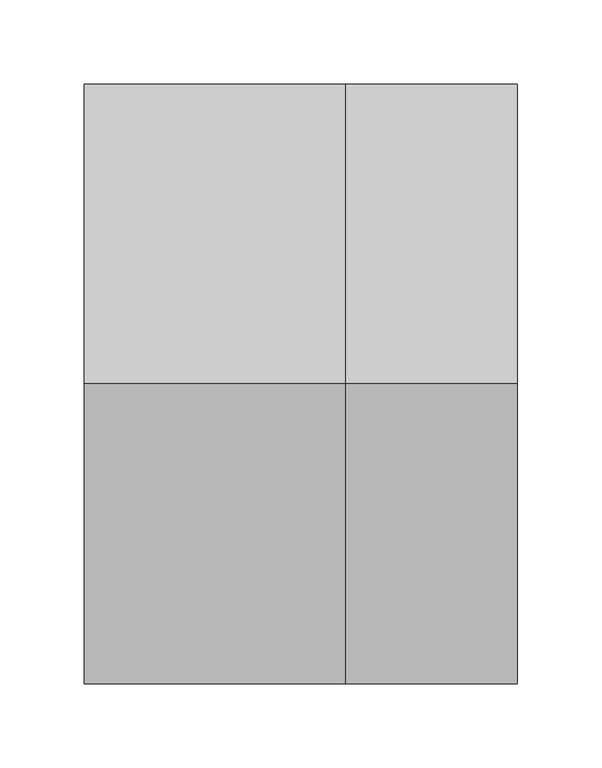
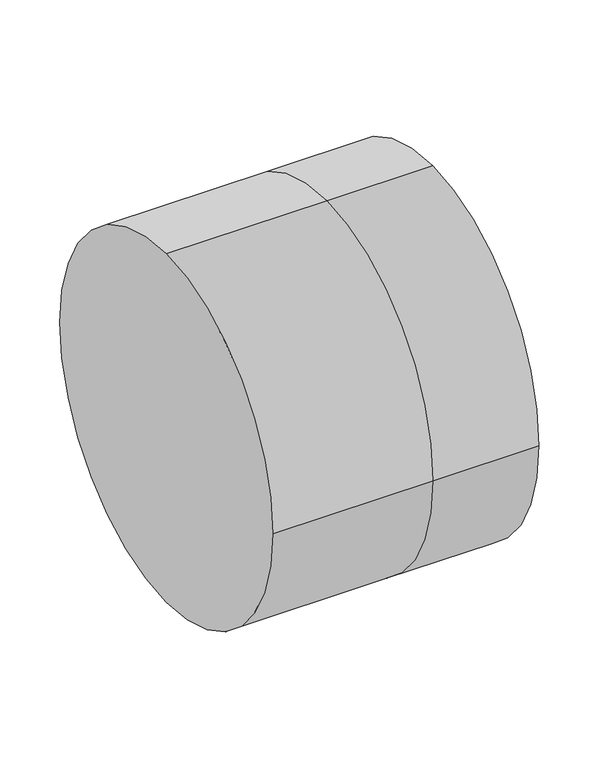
"""IFC4 building model written with IfcOpenShell, lengths in millimetres: duct fitting geometry, M_Encaixe de duto redondo : Padrão."""

from ifc_helpers import new_model, si_unit, frame, origin, place, context, project, spatial, circle_curve, source, transform, mapped, element, save
from ifc_brep_helpers import plane_surface, cylinder_surface, advanced_brep


def duct_fitting_7a0800c2(model_context):
    return source(origin(), model_context, "Body", "AdvancedBrep", [
        advanced_brep(
        [(101.6, 0.0, 177.5), (101.6, -177.5, 0.0), (101.6, 0.0, -177.5), (101.6, 177.5, 0.0), (0.0, 0.0, 177.5), (0.0, -177.5, 0.0), (0.0, 0.0, -177.5), (0.0, 177.5, 0.0), (-154.8807698, 0.0, 177.5), (-154.8807698, 177.5, 0.0), (-154.8807698, 0.0, -177.5), (-154.8807698, -177.5, 0.0)],
        [
            (0, 1, circle_curve(frame((101.6, 0.0, 0.0), z_axis=(1.0, 0.0, 0.0), x_axis=(0.0, -1.0, 0.0)), 177.5)),
            (1, 2, circle_curve(frame((101.6, 0.0, 0.0), z_axis=(1.0, 0.0, 0.0), x_axis=(0.0, -1.0, 0.0)), 177.5)),
            (2, 3, circle_curve(frame((101.6, 0.0, 0.0), z_axis=(1.0, 0.0, 0.0), x_axis=(0.0, -1.0, 0.0)), 177.5)),
            (3, 0, circle_curve(frame((101.6, 0.0, 0.0), z_axis=(1.0, 0.0, 0.0), x_axis=(0.0, -1.0, 0.0)), 177.5)),
            (0, 4),
            (4, 5, circle_curve(frame((0.0, 0.0, 0.0), z_axis=(1.0, 0.0, 0.0), x_axis=(0.0, -1.0, 0.0)), 177.5)),
            (5, 1),
            (5, 6, circle_curve(frame((0.0, 0.0, 0.0), z_axis=(1.0, 0.0, 0.0), x_axis=(0.0, -1.0, 0.0)), 177.5)),
            (6, 2),
            (6, 7, circle_curve(frame((0.0, 0.0, 0.0), z_axis=(1.0, 0.0, 0.0), x_axis=(0.0, -1.0, 0.0)), 177.5)),
            (7, 3),
            (7, 4, circle_curve(frame((0.0, 0.0, 0.0), z_axis=(1.0, 0.0, 0.0), x_axis=(0.0, -1.0, 0.0)), 177.5)),
            (8, 9, circle_curve(frame((-154.8807698, 0.0, 0.0), z_axis=(-1.0, 0.0, 0.0), x_axis=(0.0, -1.0, 0.0)), 177.5)),
            (9, 10, circle_curve(frame((-154.8807698, 0.0, 0.0), z_axis=(-1.0, 0.0, 0.0), x_axis=(0.0, -1.0, 0.0)), 177.5)),
            (10, 11, circle_curve(frame((-154.8807698, 0.0, 0.0), z_axis=(-1.0, 0.0, 0.0), x_axis=(0.0, -1.0, 0.0)), 177.5)),
            (11, 8, circle_curve(frame((-154.8807698, 0.0, 0.0), z_axis=(-1.0, 0.0, 0.0), x_axis=(0.0, -1.0, 0.0)), 177.5)),
            (11, 5),
            (4, 8),
            (10, 6),
            (9, 7),
        ],
        [
            plane_surface(frame((101.6, 0.0, 0.0), z_axis=(1.0, 0.0, 0.0), x_axis=(0.0, 0.0, 1.0))),
            cylinder_surface(frame((0.0, 0.0, 0.0), z_axis=(-1.0, 0.0, 0.0), x_axis=(0.0, -1.0, 0.0)), 177.5),
            plane_surface(frame((-154.8807698, 0.0, 0.0), z_axis=(-1.0, 0.0, 0.0), x_axis=(0.0, 0.0, 1.0))),
            cylinder_surface(frame((-154.8807698, 0.0, 0.0), z_axis=(-1.0, 0.0, 0.0), x_axis=(0.0, -1.0, 0.0)), 177.5),
        ],
        [
            (0, [[1, 2, 3, 4]]),
            (1, [[5, 6, 7, -1]]),
            (1, [[-7, 8, 9, -2]]),
            (1, [[-9, 10, 11, -3]]),
            (1, [[-11, 12, -5, -4]]),
            (2, [[13, 14, 15, 16]]),
            (3, [[17, -6, 18, -16]]),
            (3, [[19, -8, -17, -15]]),
            (3, [[20, -10, -19, -14]]),
            (3, [[-18, -12, -20, -13]]),
        ],
    ),
    ])


if __name__ == "__main__":
    model = new_model("IFC4")
    model_context = context("Model", 3, world=origin())
    ifc_project = project(units=[si_unit("LENGTHUNIT", "METRE", prefix="MILLI")], contexts=[model_context])
    site = spatial("IfcSite", under=ifc_project)
    building = spatial("IfcBuilding", under=site)
    placement = place(None, origin())
    duct_fitting_shape = duct_fitting_7a0800c2(model_context)
    element("IfcDuctFitting", 1, ObjectType="M_Encaixe de duto redondo : Padrão", at=placement, inside=building, context=model_context, shape_type="MappedRepresentation", body=[
        mapped(duct_fitting_shape, transform((0.0, 0.0, 0.0), x_axis=(1.0, 0.0, 0.0), y_axis=(0.0, 1.0, 0.0), z_axis=(0.0, 0.0, 1.0))),
    ])
    save(model, "model.ifc")
